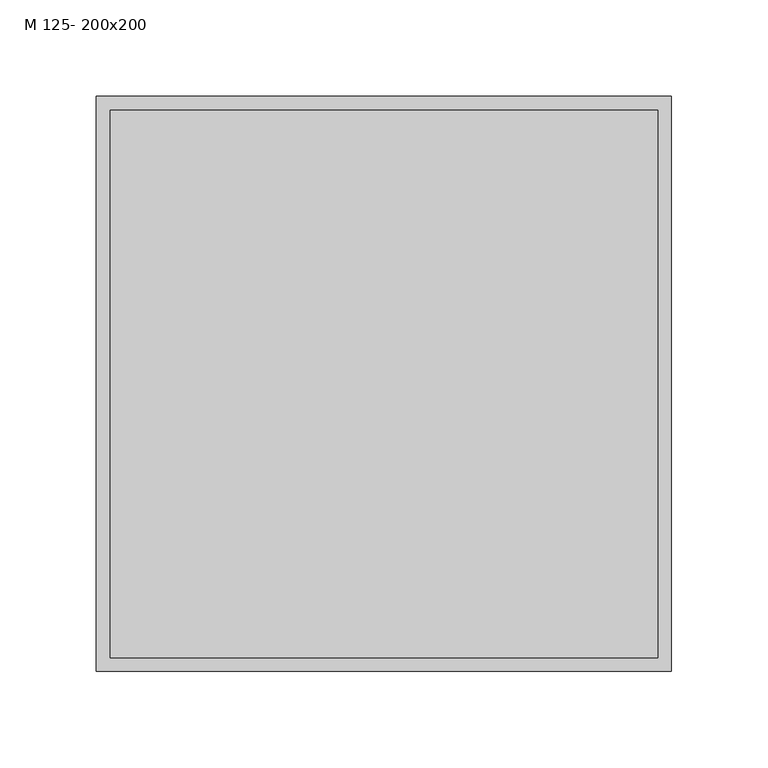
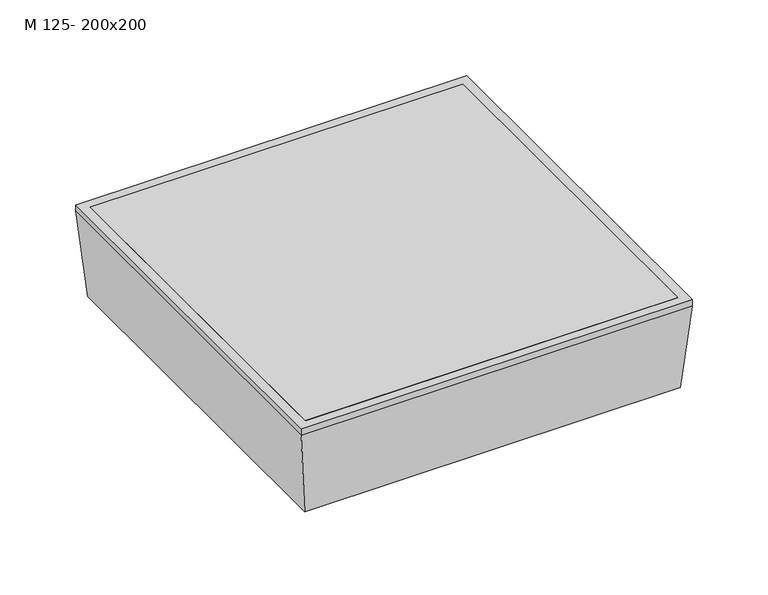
"""IFC4 building model written with IfcOpenShell, lengths in millimetres: proxy geometry, ME_AL_WPB_Access Cover UNIFACE AL_ACO : M 125- 200x200."""

from ifc_helpers import new_model, si_unit, frame, origin, place, context, project, spatial, polyline, outline, extrude, faceted_brep, source, transform, mapped, element, save


def m_125_200x200_70a2e894(model_context):
    return source(origin(), model_context, "Body", "SolidModel", [
        extrude(outline(polyline([(100.0, 100.0), (100.0, -100.0), (-100.0, -100.0), (-100.0, 100.0), (100.0, 100.0)])), frame((0.0, 0.0, -72.0), z_axis=(0.0, 0.0, 1.0), x_axis=(1.0, 0.0, 0.0)), (0.0, 0.0, 1.0), 2.0),
        extrude(outline(polyline([(141.9, 141.9), (141.9, -141.9), (-141.9, -141.9), (-141.9, 141.9), (141.9, 141.9)])), frame((0.0, 0.0, -5.0), z_axis=(0.0, 0.0, 1.0), x_axis=(1.0, 0.0, 0.0)), (0.0, 0.0, 1.0), 5.0),
        faceted_brep([(-100.0, 100.0, -72.5), (-100.0, 100.0, -70.5), (-100.0, -100.0, -70.5), (-100.0, -100.0, -72.5), (100.0, -100.0, -70.5), (100.0, -100.0, -72.5), (100.0, 100.0, -70.5), (100.0, 100.0, -72.5), (-149.0, -149.0, 0.0), (149.0, -149.0, 0.0), (149.0, 149.0, 0.0), (-149.0, 149.0, 0.0), (-141.9, 141.9, 0.0), (141.9, 141.9, 0.0), (141.9, -141.9, 0.0), (-141.9, -141.9, 0.0), (-149.0, 149.0, -5.0), (-143.0945152, 143.0945152, -72.5), (-143.0945152, -143.0945152, -72.5), (-149.0, -149.0, -5.0), (-141.9, 141.9, -2.0), (-141.9, -141.9, -2.0), (-147.0, 147.0, -4.9126781), (-147.0, 147.0, -2.0), (-147.0, -147.0, -2.0), (-147.0, -147.0, -4.9126781), (-141.2618529, 141.2618529, -70.5), (-141.2618529, -141.2618529, -70.5), (143.0945152, -143.0945152, -72.5), (149.0, -149.0, -5.0), (141.9, -141.9, -2.0), (147.0, -147.0, -2.0), (147.0, -147.0, -4.9126781), (141.2618529, -141.2618529, -70.5), (143.0945152, 143.0945152, -72.5), (149.0, 149.0, -5.0), (141.9, 141.9, -2.0), (147.0, 147.0, -2.0), (147.0, 147.0, -4.9126781), (141.2618529, 141.2618529, -70.5)], [[[0, 1, 2, 3]], [[3, 2, 4, 5]], [[5, 4, 6, 7]], [[8, 9, 10, 11], [12, 13, 14, 15]], [[7, 6, 1, 0]], [[16, 17, 18, 19]], [[11, 16, 19, 8]], [[20, 12, 15, 21]], [[22, 23, 24, 25]], [[26, 22, 25, 27]], [[19, 18, 28, 29]], [[8, 19, 29, 9]], [[21, 15, 14, 30]], [[25, 24, 31, 32]], [[27, 25, 32, 33]], [[29, 28, 34, 35]], [[9, 29, 35, 10]], [[30, 14, 13, 36]], [[32, 31, 37, 38]], [[33, 32, 38, 39]], [[17, 34, 28, 18], [3, 5, 7, 0]], [[35, 34, 17, 16]], [[10, 35, 16, 11]], [[36, 13, 12, 20]], [[23, 37, 31, 24], [21, 30, 36, 20]], [[38, 37, 23, 22]], [[39, 38, 22, 26]], [[27, 33, 39, 26], [1, 6, 4, 2]]]),
    ])


if __name__ == "__main__":
    model = new_model("IFC4")
    model_context = context("Model", 3, world=origin())
    ifc_project = project(units=[si_unit("LENGTHUNIT", "METRE", prefix="MILLI")], contexts=[model_context])
    site = spatial("IfcSite", under=ifc_project)
    building = spatial("IfcBuilding", under=site)
    placement = place(None, origin())
    m_125_200x200_shape = m_125_200x200_70a2e894(model_context)
    element("IfcBuildingElementProxy", 1, Name="ME_AL_WPB_Access Cover UNIFACE AL_ACO : M 125- 200x200", ObjectType="ME_AL_WPB_Access Cover UNIFACE AL_ACO : M 125- 200x200", at=placement, inside=building, context=model_context, shape_type="MappedRepresentation", body=[
        mapped(m_125_200x200_shape, transform((0.0, 0.0, 0.0), x_axis=(1.0, 0.0, 0.0), y_axis=(0.0, 1.0, 0.0), z_axis=(0.0, 0.0, 1.0))),
    ])
    save(model, "model.ifc")
